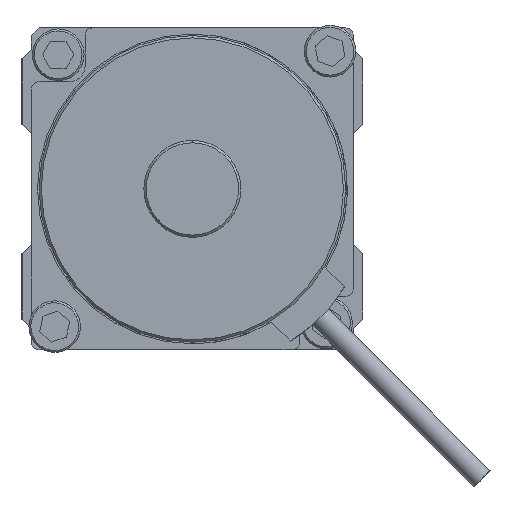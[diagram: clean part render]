
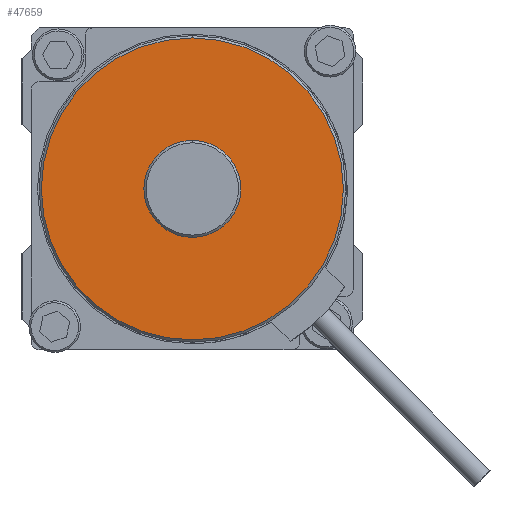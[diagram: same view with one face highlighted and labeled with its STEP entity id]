
A CAD part, left-side view. The second image highlights one B-rep face of the part: STEP entity #47659.
In plain terms, the highlighted planar face has unit normal (-1, 0, 0) as drawn and (0, 0, -1) by its records, which use the part's own axes.
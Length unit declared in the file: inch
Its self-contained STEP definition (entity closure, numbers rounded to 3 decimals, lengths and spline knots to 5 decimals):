
#675 = CIRCLE ( 'NONE', #77881, 0.77559 ) ;
#1945 = CARTESIAN_POINT ( 'NONE',  ( 0., 0., -2.79528 ) ) ;
#2256 = CARTESIAN_POINT ( 'NONE',  ( 0.77559, 0., -2.79528 ) ) ;
#2535 = CARTESIAN_POINT ( 'NONE',  ( -0.24902, 0., -2.79528 ) ) ;
#4156 = ORIENTED_EDGE ( 'NONE', *, *, #73206, .F. ) ;
#7705 = DIRECTION ( 'NONE',  ( 1., 0., 0. ) ) ;
#8262 = DIRECTION ( 'NONE',  ( 1., 0., 0. ) ) ;
#11260 = AXIS2_PLACEMENT_3D ( 'NONE', #68984, #83240, #24237 ) ;
#15241 = AXIS2_PLACEMENT_3D ( 'NONE', #35651, #29281, #72440 ) ;
#17967 = CARTESIAN_POINT ( 'NONE',  ( 0.24902, 0., -2.79528 ) ) ;
#18131 = CIRCLE ( 'NONE', #86653, 0.24902 ) ;
#19033 = ORIENTED_EDGE ( 'NONE', *, *, #29297, .F. ) ;
#24237 = DIRECTION ( 'NONE',  ( 1., 0., 0. ) ) ;
#29281 = DIRECTION ( 'NONE',  ( 0., 0., -1. ) ) ;
#29297 = EDGE_CURVE ( 'NONE', #31612, #87459, #18131, .T. ) ;
#29938 = DIRECTION ( 'NONE',  ( 0., 0., -1. ) ) ;
#31612 = VERTEX_POINT ( 'NONE', #2535 ) ;
#31813 = FACE_BOUND ( 'NONE', #61853, .T. ) ;
#35651 = CARTESIAN_POINT ( 'NONE',  ( 0., 0., -2.79528 ) ) ;
#35739 = ORIENTED_EDGE ( 'NONE', *, *, #87176, .T. ) ;
#41663 = ORIENTED_EDGE ( 'NONE', *, *, #59247, .T. ) ;
#47659 = ADVANCED_FACE ( 'NONE', ( #57981, #31813 ), #67729, .F. ) ;
#50851 = CARTESIAN_POINT ( 'NONE',  ( 0., 0., -2.79528 ) ) ;
#51002 = EDGE_LOOP ( 'NONE', ( #35739, #41663 ) ) ;
#52176 = DIRECTION ( 'NONE',  ( 1., 0., 0. ) ) ;
#57981 = FACE_OUTER_BOUND ( 'NONE', #51002, .T. ) ;
#59247 = EDGE_CURVE ( 'NONE', #73523, #74025, #675, .T. ) ;
#61853 = EDGE_LOOP ( 'NONE', ( #4156, #19033 ) ) ;
#64795 = DIRECTION ( 'NONE',  ( 0., 0., -1. ) ) ;
#67729 = PLANE ( 'NONE',  #11260 ) ;
#68273 = CARTESIAN_POINT ( 'NONE',  ( -0.77559, 0., -2.79528 ) ) ;
#68984 = CARTESIAN_POINT ( 'NONE',  ( 0., 0., -2.79528 ) ) ;
#70372 = CIRCLE ( 'NONE', #15241, 0.24902 ) ;
#72440 = DIRECTION ( 'NONE',  ( 1., 0., 0. ) ) ;
#73206 = EDGE_CURVE ( 'NONE', #87459, #31612, #70372, .T. ) ;
#73523 = VERTEX_POINT ( 'NONE', #68273 ) ;
#74025 = VERTEX_POINT ( 'NONE', #2256 ) ;
#77881 = AXIS2_PLACEMENT_3D ( 'NONE', #50851, #64795, #7705 ) ;
#78311 = CIRCLE ( 'NONE', #84962, 0.77559 ) ;
#83240 = DIRECTION ( 'NONE',  ( 0., 0., 1. ) ) ;
#84962 = AXIS2_PLACEMENT_3D ( 'NONE', #1945, #88099, #8262 ) ;
#86653 = AXIS2_PLACEMENT_3D ( 'NONE', #87953, #29938, #52176 ) ;
#87176 = EDGE_CURVE ( 'NONE', #74025, #73523, #78311, .T. ) ;
#87459 = VERTEX_POINT ( 'NONE', #17967 ) ;
#87953 = CARTESIAN_POINT ( 'NONE',  ( 0., 0., -2.79528 ) ) ;
#88099 = DIRECTION ( 'NONE',  ( 0., 0., -1. ) ) ;
